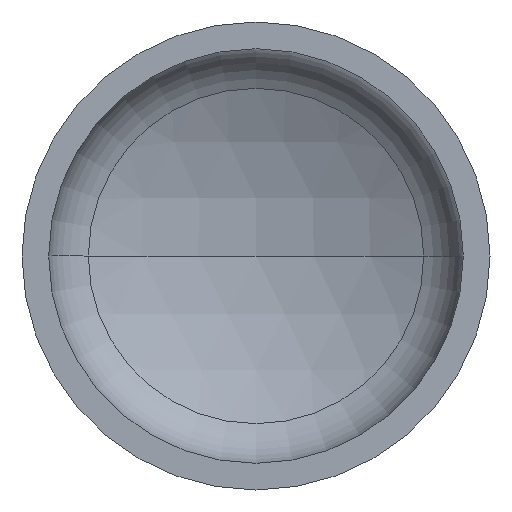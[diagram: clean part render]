
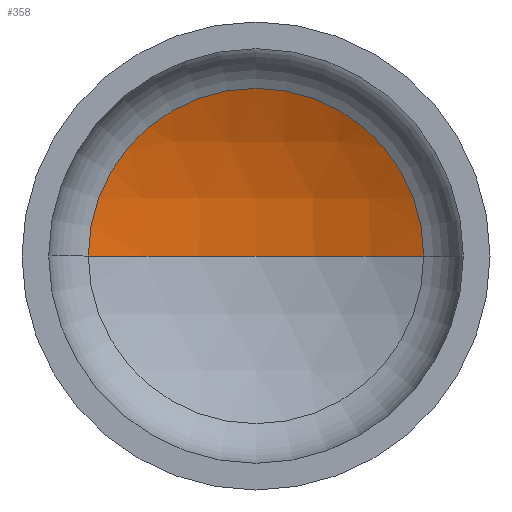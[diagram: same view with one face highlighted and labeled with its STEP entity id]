
A CAD part, front view. The second image highlights one B-rep face of the part: STEP entity #358.
In plain terms, the highlighted spherical face has radius 406 mm.
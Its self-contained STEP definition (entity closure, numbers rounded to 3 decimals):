
#9 = AXIS2_PLACEMENT_3D ( 'NONE', #251, #400, #245 ) ;
#11 = EDGE_LOOP ( 'NONE', ( #79, #34, #84 ) ) ;
#13 = DIRECTION ( 'NONE',  ( 0., -1., 0. ) ) ;
#16 = AXIS2_PLACEMENT_3D ( 'NONE', #137, #13, #287 ) ;
#34 = ORIENTED_EDGE ( 'NONE', *, *, #376, .T. ) ;
#36 = VERTEX_POINT ( 'NONE', #293 ) ;
#79 = ORIENTED_EDGE ( 'NONE', *, *, #381, .F. ) ;
#80 = VERTEX_POINT ( 'NONE', #247 ) ;
#84 = ORIENTED_EDGE ( 'NONE', *, *, #350, .T. ) ;
#100 = VERTEX_POINT ( 'NONE', #341 ) ;
#136 = CARTESIAN_POINT ( 'NONE',  ( 0., -203.215, 0. ) ) ;
#137 = CARTESIAN_POINT ( 'NONE',  ( 0., 159.728, 0. ) ) ;
#141 = FACE_OUTER_BOUND ( 'NONE', #11, .T. ) ;
#152 = DIRECTION ( 'NONE',  ( 1., 0., 0. ) ) ;
#154 = DIRECTION ( 'NONE',  ( 0., 0., -1. ) ) ;
#179 = CARTESIAN_POINT ( 'NONE',  ( 0., -203.215, 0. ) ) ;
#193 = CIRCLE ( 'NONE', #359, 406. ) ;
#207 = DIRECTION ( 'NONE',  ( 0., 0., 1. ) ) ;
#210 = CIRCLE ( 'NONE', #16, 181.957 ) ;
#213 = DIRECTION ( 'NONE',  ( -1., 0., 0. ) ) ;
#245 = DIRECTION ( 'NONE',  ( -1., 0., 0. ) ) ;
#247 = CARTESIAN_POINT ( 'NONE',  ( -181.957, 159.728, 0. ) ) ;
#251 = CARTESIAN_POINT ( 'NONE',  ( 0., -203.215, 0. ) ) ;
#267 = CIRCLE ( 'NONE', #325, 406. ) ;
#287 = DIRECTION ( 'NONE',  ( 1., 0., 0. ) ) ;
#293 = CARTESIAN_POINT ( 'NONE',  ( 0., 202.785, 0. ) ) ;
#325 = AXIS2_PLACEMENT_3D ( 'NONE', #179, #154, #213 ) ;
#335 = SPHERICAL_SURFACE ( 'NONE', #9, 406. ) ;
#341 = CARTESIAN_POINT ( 'NONE',  ( 181.957, 159.728, 0. ) ) ;
#350 = EDGE_CURVE ( 'NONE', #100, #80, #210, .T. ) ;
#358 = ADVANCED_FACE ( 'NONE', ( #141 ), #335, .F. ) ;
#359 = AXIS2_PLACEMENT_3D ( 'NONE', #136, #207, #152 ) ;
#376 = EDGE_CURVE ( 'NONE', #36, #100, #267, .T. ) ;
#381 = EDGE_CURVE ( 'NONE', #36, #80, #193, .T. ) ;
#400 = DIRECTION ( 'NONE',  ( 0., 0., -1. ) ) ;
